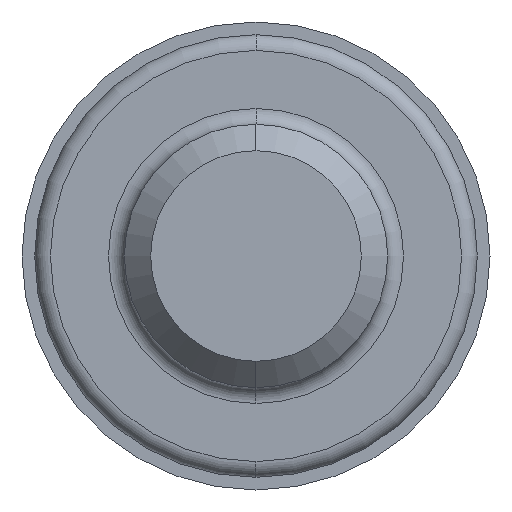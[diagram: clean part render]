
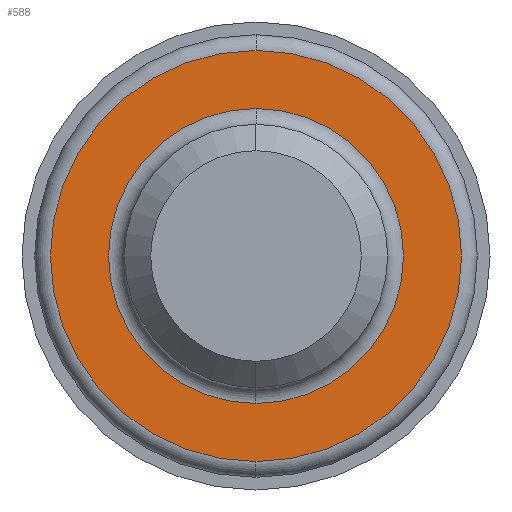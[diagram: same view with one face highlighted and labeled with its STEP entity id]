
A CAD part, left-side view. The second image highlights one B-rep face of the part: STEP entity #588.
In plain terms, the highlighted planar face has unit normal (-1, 0, 0).
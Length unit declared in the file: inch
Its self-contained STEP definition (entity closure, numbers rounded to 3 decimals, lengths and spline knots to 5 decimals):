
#5 = DIRECTION ( 'NONE',  ( -1., 0., 0. ) ) ;
#36 = DIRECTION ( 'NONE',  ( 0., 0., -1. ) ) ;
#41 = CIRCLE ( 'NONE', #684, 0.39 ) ;
#57 = ORIENTED_EDGE ( 'NONE', *, *, #172, .T. ) ;
#95 = CARTESIAN_POINT ( 'NONE',  ( 1.88, 0.39, 0. ) ) ;
#103 = CARTESIAN_POINT ( 'NONE',  ( 1.88, 0., 0.27985 ) ) ;
#108 = CARTESIAN_POINT ( 'NONE',  ( 1.88, 0., 0.39 ) ) ;
#113 = CIRCLE ( 'NONE', #480, 0.27985 ) ;
#140 = AXIS2_PLACEMENT_3D ( 'NONE', #95, #417, #36 ) ;
#172 = EDGE_CURVE ( 'NONE', #502, #544, #806, .T. ) ;
#214 = ORIENTED_EDGE ( 'NONE', *, *, #740, .T. ) ;
#239 = DIRECTION ( 'NONE',  ( -1., 0., 0. ) ) ;
#245 = AXIS2_PLACEMENT_3D ( 'NONE', #528, #525, #711 ) ;
#254 = CARTESIAN_POINT ( 'NONE',  ( 1.88, 0., 0. ) ) ;
#260 = DIRECTION ( 'NONE',  ( 0., 0., 1. ) ) ;
#264 = VERTEX_POINT ( 'NONE', #697 ) ;
#320 = EDGE_CURVE ( 'NONE', #264, #569, #729, .T. ) ;
#377 = CARTESIAN_POINT ( 'NONE',  ( 1.88, 0., 0. ) ) ;
#400 = EDGE_LOOP ( 'NONE', ( #214, #57 ) ) ;
#407 = EDGE_CURVE ( 'NONE', #569, #264, #113, .T. ) ;
#412 = FACE_BOUND ( 'NONE', #482, .T. ) ;
#417 = DIRECTION ( 'NONE',  ( 1., 0., 0. ) ) ;
#449 = DIRECTION ( 'NONE',  ( 0., 0., 1. ) ) ;
#480 = AXIS2_PLACEMENT_3D ( 'NONE', #575, #5, #260 ) ;
#482 = EDGE_LOOP ( 'NONE', ( #701, #721 ) ) ;
#483 = PLANE ( 'NONE',  #140 ) ;
#490 = CARTESIAN_POINT ( 'NONE',  ( 1.88, 0., -0.39 ) ) ;
#502 = VERTEX_POINT ( 'NONE', #490 ) ;
#516 = DIRECTION ( 'NONE',  ( -1., 0., 0. ) ) ;
#525 = DIRECTION ( 'NONE',  ( -1., 0., 0. ) ) ;
#528 = CARTESIAN_POINT ( 'NONE',  ( 1.88, 0., 0. ) ) ;
#544 = VERTEX_POINT ( 'NONE', #108 ) ;
#569 = VERTEX_POINT ( 'NONE', #103 ) ;
#575 = CARTESIAN_POINT ( 'NONE',  ( 1.88, 0., 0. ) ) ;
#588 = ADVANCED_FACE ( 'NONE', ( #412, #792 ), #483, .F. ) ;
#646 = AXIS2_PLACEMENT_3D ( 'NONE', #254, #516, #449 ) ;
#684 = AXIS2_PLACEMENT_3D ( 'NONE', #377, #239, #748 ) ;
#697 = CARTESIAN_POINT ( 'NONE',  ( 1.88, 0., -0.27985 ) ) ;
#701 = ORIENTED_EDGE ( 'NONE', *, *, #407, .F. ) ;
#711 = DIRECTION ( 'NONE',  ( 0., 0., 1. ) ) ;
#721 = ORIENTED_EDGE ( 'NONE', *, *, #320, .F. ) ;
#729 = CIRCLE ( 'NONE', #245, 0.27985 ) ;
#740 = EDGE_CURVE ( 'NONE', #544, #502, #41, .T. ) ;
#748 = DIRECTION ( 'NONE',  ( 0., 0., 1. ) ) ;
#792 = FACE_OUTER_BOUND ( 'NONE', #400, .T. ) ;
#806 = CIRCLE ( 'NONE', #646, 0.39 ) ;
